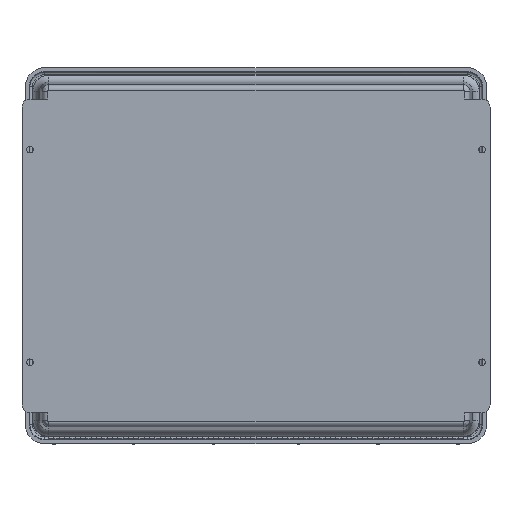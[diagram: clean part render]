
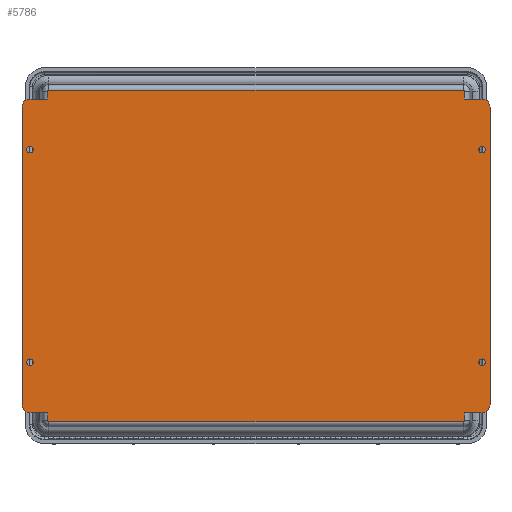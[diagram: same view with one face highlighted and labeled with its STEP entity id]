
A CAD part, front view. The second image highlights one B-rep face of the part: STEP entity #5786.
In plain terms, the highlighted planar face has unit normal (0, -1, 0) as drawn and (0, 0, 1) by its records, which use the part's own axes.
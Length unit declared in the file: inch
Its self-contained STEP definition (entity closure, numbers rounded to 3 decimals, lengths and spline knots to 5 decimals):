
#1221=DIRECTION('',(0.,-1.,0.));
#1222=VECTOR('',#1221,0.37559);
#1223=CARTESIAN_POINT('',(9.79238,-7.3744,8.5625));
#1224=LINE('',#1223,#1222);
#1290=DIRECTION('',(0.,1.,0.));
#1291=VECTOR('',#1290,0.37559);
#1292=CARTESIAN_POINT('',(-9.79238,7.3744,8.5625));
#1293=LINE('',#1292,#1291);
#1294=DIRECTION('',(1.,0.,0.));
#1295=VECTOR('',#1294,0.83262);
#1296=CARTESIAN_POINT('',(-10.625,7.3744,8.5625));
#1297=LINE('',#1296,#1295);
#1316=CARTESIAN_POINT('',(-9.74998,-7.74998,8.5625));
#1317=DIRECTION('',(0.,0.,1.));
#1318=DIRECTION('',(-1.,0.,0.));
#1319=AXIS2_PLACEMENT_3D('',#1316,#1317,#1318);
#1321=CARTESIAN_POINT('',(-10.625,-6.9994,8.5625));
#1322=DIRECTION('',(0.,0.,1.));
#1323=DIRECTION('',(-1.,0.,0.));
#1324=AXIS2_PLACEMENT_3D('',#1321,#1322,#1323);
#1326=CARTESIAN_POINT('',(-10.625,6.9994,8.5625));
#1327=DIRECTION('',(0.,0.,1.));
#1328=DIRECTION('',(0.,1.,0.));
#1329=AXIS2_PLACEMENT_3D('',#1326,#1327,#1328);
#1331=CARTESIAN_POINT('',(-9.74998,7.74998,8.5625));
#1332=DIRECTION('',(0.,0.,1.));
#1333=DIRECTION('',(0.,1.,0.));
#1334=AXIS2_PLACEMENT_3D('',#1331,#1332,#1333);
#1336=CARTESIAN_POINT('',(9.74998,7.74998,8.5625));
#1337=DIRECTION('',(0.,0.,1.));
#1338=DIRECTION('',(1.,0.,0.));
#1339=AXIS2_PLACEMENT_3D('',#1336,#1337,#1338);
#1341=DIRECTION('',(-1.,0.,0.));
#1342=VECTOR('',#1341,0.83262);
#1343=CARTESIAN_POINT('',(10.625,7.3744,8.5625));
#1344=LINE('',#1343,#1342);
#1345=CARTESIAN_POINT('',(10.625,6.9994,8.5625));
#1346=DIRECTION('',(0.,0.,1.));
#1347=DIRECTION('',(1.,0.,0.));
#1348=AXIS2_PLACEMENT_3D('',#1345,#1346,#1347);
#1350=DIRECTION('',(0.,1.,0.));
#1351=VECTOR('',#1350,13.99879);
#1352=CARTESIAN_POINT('',(11.,-6.9994,8.5625));
#1353=LINE('',#1352,#1351);
#1354=CARTESIAN_POINT('',(10.625,-6.9994,8.5625));
#1355=DIRECTION('',(0.,0.,1.));
#1356=DIRECTION('',(0.,-1.,0.));
#1357=AXIS2_PLACEMENT_3D('',#1354,#1355,#1356);
#1359=DIRECTION('',(1.,0.,0.));
#1360=VECTOR('',#1359,0.83262);
#1361=CARTESIAN_POINT('',(9.79238,-7.3744,8.5625));
#1362=LINE('',#1361,#1360);
#1363=CARTESIAN_POINT('',(9.74998,-7.74998,8.5625));
#1364=DIRECTION('',(0.,0.,1.));
#1365=DIRECTION('',(0.,-1.,0.));
#1366=AXIS2_PLACEMENT_3D('',#1363,#1364,#1365);
#1368=CARTESIAN_POINT('',(-10.625,-5.,8.5625));
#1369=DIRECTION('',(0.,0.,-1.));
#1370=DIRECTION('',(1.,0.,0.));
#1371=AXIS2_PLACEMENT_3D('',#1368,#1369,#1370);
#1373=CARTESIAN_POINT('',(-10.625,-5.,8.5625));
#1374=DIRECTION('',(0.,0.,-1.));
#1375=DIRECTION('',(-1.,0.,0.));
#1376=AXIS2_PLACEMENT_3D('',#1373,#1374,#1375);
#1378=CARTESIAN_POINT('',(10.625,-5.,8.5625));
#1379=DIRECTION('',(0.,0.,-1.));
#1380=DIRECTION('',(1.,0.,0.));
#1381=AXIS2_PLACEMENT_3D('',#1378,#1379,#1380);
#1383=CARTESIAN_POINT('',(10.625,-5.,8.5625));
#1384=DIRECTION('',(0.,0.,-1.));
#1385=DIRECTION('',(-1.,0.,0.));
#1386=AXIS2_PLACEMENT_3D('',#1383,#1384,#1385);
#1388=CARTESIAN_POINT('',(10.625,5.,8.5625));
#1389=DIRECTION('',(0.,0.,-1.));
#1390=DIRECTION('',(1.,0.,0.));
#1391=AXIS2_PLACEMENT_3D('',#1388,#1389,#1390);
#1393=CARTESIAN_POINT('',(10.625,5.,8.5625));
#1394=DIRECTION('',(0.,0.,-1.));
#1395=DIRECTION('',(-1.,0.,0.));
#1396=AXIS2_PLACEMENT_3D('',#1393,#1394,#1395);
#1398=CARTESIAN_POINT('',(-10.625,5.,8.5625));
#1399=DIRECTION('',(0.,0.,-1.));
#1400=DIRECTION('',(1.,0.,0.));
#1401=AXIS2_PLACEMENT_3D('',#1398,#1399,#1400);
#1403=CARTESIAN_POINT('',(-10.625,5.,8.5625));
#1404=DIRECTION('',(0.,0.,-1.));
#1405=DIRECTION('',(-1.,0.,0.));
#1406=AXIS2_PLACEMENT_3D('',#1403,#1404,#1405);
#1422=DIRECTION('',(-1.,0.,0.));
#1423=VECTOR('',#1422,19.49996);
#1424=CARTESIAN_POINT('',(9.74998,-7.79244,8.5625));
#1425=LINE('',#1424,#1423);
#1450=DIRECTION('',(0.,1.,0.));
#1451=VECTOR('',#1450,0.37559);
#1452=CARTESIAN_POINT('',(-9.79238,-7.74998,8.5625));
#1453=LINE('',#1452,#1451);
#1570=DIRECTION('',(-1.,0.,0.));
#1571=VECTOR('',#1570,0.83262);
#1572=CARTESIAN_POINT('',(-9.79238,-7.3744,8.5625));
#1573=LINE('',#1572,#1571);
#1582=DIRECTION('',(0.,1.,0.));
#1583=VECTOR('',#1582,13.99879);
#1584=CARTESIAN_POINT('',(-11.,-6.9994,8.5625));
#1585=LINE('',#1584,#1583);
#1675=DIRECTION('',(1.,0.,0.));
#1676=VECTOR('',#1675,19.49996);
#1677=CARTESIAN_POINT('',(-9.74998,7.79244,8.5625));
#1678=LINE('',#1677,#1676);
#1713=DIRECTION('',(0.,-1.,0.));
#1714=VECTOR('',#1713,0.37559);
#1715=CARTESIAN_POINT('',(9.79238,7.74998,8.5625));
#1716=LINE('',#1715,#1714);
#3446=CARTESIAN_POINT('',(-9.79238,-7.74998,8.5625));
#3447=VERTEX_POINT('',#3446);
#3450=CARTESIAN_POINT('',(-9.74998,-7.79256,8.5625));
#3451=VERTEX_POINT('',#3450);
#3453=CARTESIAN_POINT('',(-9.79238,-7.3744,8.5625));
#3455=VERTEX_POINT('',#3453);
#3456=CARTESIAN_POINT('',(-10.625,-7.3744,8.5625));
#3457=VERTEX_POINT('',#3456);
#3464=CARTESIAN_POINT('',(-9.79238,7.74998,8.5625));
#3466=VERTEX_POINT('',#3464);
#3469=CARTESIAN_POINT('',(-9.74998,7.79238,8.5625));
#3470=VERTEX_POINT('',#3469);
#3473=CARTESIAN_POINT('',(-9.79238,7.3744,8.5625));
#3475=VERTEX_POINT('',#3473);
#3479=CARTESIAN_POINT('',(-10.625,7.3744,8.5625));
#3480=VERTEX_POINT('',#3479);
#3485=CARTESIAN_POINT('',(9.74998,7.79256,8.5625));
#3487=VERTEX_POINT('',#3485);
#3489=CARTESIAN_POINT('',(9.79238,7.74998,8.5625));
#3490=VERTEX_POINT('',#3489);
#3498=CARTESIAN_POINT('',(9.79238,7.3744,8.5625));
#3500=VERTEX_POINT('',#3498);
#3502=CARTESIAN_POINT('',(10.625,7.3744,8.5625));
#3503=VERTEX_POINT('',#3502);
#3509=CARTESIAN_POINT('',(9.74998,-7.79256,8.5625));
#3511=VERTEX_POINT('',#3509);
#3512=CARTESIAN_POINT('',(9.79238,-7.74998,8.5625));
#3513=VERTEX_POINT('',#3512);
#3514=CARTESIAN_POINT('',(9.79238,-7.3744,8.5625));
#3515=VERTEX_POINT('',#3514);
#3516=CARTESIAN_POINT('',(10.625,-7.3744,8.5625));
#3517=VERTEX_POINT('',#3516);
#3518=CARTESIAN_POINT('',(11.,-6.9994,8.5625));
#3519=VERTEX_POINT('',#3518);
#3520=CARTESIAN_POINT('',(11.,6.9994,8.5625));
#3521=VERTEX_POINT('',#3520);
#3522=CARTESIAN_POINT('',(-11.,6.9994,8.5625));
#3523=VERTEX_POINT('',#3522);
#3524=CARTESIAN_POINT('',(-11.,-6.9994,8.5625));
#3525=VERTEX_POINT('',#3524);
#3801=CARTESIAN_POINT('',(-10.469,-5.,8.5625));
#3803=VERTEX_POINT('',#3801);
#3805=CARTESIAN_POINT('',(-10.781,-5.,8.5625));
#3807=VERTEX_POINT('',#3805);
#3809=CARTESIAN_POINT('',(10.781,-5.,8.5625));
#3811=VERTEX_POINT('',#3809);
#3813=CARTESIAN_POINT('',(10.469,-5.,8.5625));
#3815=VERTEX_POINT('',#3813);
#3817=CARTESIAN_POINT('',(10.781,5.,8.5625));
#3819=VERTEX_POINT('',#3817);
#3821=CARTESIAN_POINT('',(10.469,5.,8.5625));
#3823=VERTEX_POINT('',#3821);
#3825=CARTESIAN_POINT('',(-10.469,5.,8.5625));
#3827=VERTEX_POINT('',#3825);
#3829=CARTESIAN_POINT('',(-10.781,5.,8.5625));
#3831=VERTEX_POINT('',#3829);
#5719=CARTESIAN_POINT('',(0.,0.,8.5625));
#5720=DIRECTION('',(0.,0.,1.));
#5721=DIRECTION('',(1.,0.,0.));
#5722=AXIS2_PLACEMENT_3D('',#5719,#5720,#5721);
#5723=PLANE('',#5722);
#5725=ORIENTED_EDGE('',*,*,#5724,.T.);
#5727=ORIENTED_EDGE('',*,*,#5726,.F.);
#5729=ORIENTED_EDGE('',*,*,#5728,.T.);
#5731=ORIENTED_EDGE('',*,*,#5730,.T.);
#5733=ORIENTED_EDGE('',*,*,#5732,.F.);
#5735=ORIENTED_EDGE('',*,*,#5734,.T.);
#5737=ORIENTED_EDGE('',*,*,#5736,.F.);
#5738=ORIENTED_EDGE('',*,*,#5707,.T.);
#5739=ORIENTED_EDGE('',*,*,#5697,.T.);
#5741=ORIENTED_EDGE('',*,*,#5740,.F.);
#5743=ORIENTED_EDGE('',*,*,#5742,.T.);
#5745=ORIENTED_EDGE('',*,*,#5744,.F.);
#5747=ORIENTED_EDGE('',*,*,#5746,.T.);
#5749=ORIENTED_EDGE('',*,*,#5748,.F.);
#5751=ORIENTED_EDGE('',*,*,#5750,.F.);
#5753=ORIENTED_EDGE('',*,*,#5752,.F.);
#5755=ORIENTED_EDGE('',*,*,#5754,.F.);
#5757=ORIENTED_EDGE('',*,*,#5756,.F.);
#5758=ORIENTED_EDGE('',*,*,#5565,.T.);
#5759=ORIENTED_EDGE('',*,*,#5613,.F.);
#5760=EDGE_LOOP('',(#5725,#5727,#5729,#5731,#5733,#5735,#5737,#5738,#5739,#5741,
#5743,#5745,#5747,#5749,#5751,#5753,#5755,#5757,#5758,#5759));
#5761=FACE_OUTER_BOUND('',#5760,.F.);
#5763=ORIENTED_EDGE('',*,*,#5762,.F.);
#5765=ORIENTED_EDGE('',*,*,#5764,.F.);
#5766=EDGE_LOOP('',(#5763,#5765));
#5767=FACE_BOUND('',#5766,.F.);
#5769=ORIENTED_EDGE('',*,*,#5768,.F.);
#5771=ORIENTED_EDGE('',*,*,#5770,.F.);
#5772=EDGE_LOOP('',(#5769,#5771));
#5773=FACE_BOUND('',#5772,.F.);
#5775=ORIENTED_EDGE('',*,*,#5774,.F.);
#5777=ORIENTED_EDGE('',*,*,#5776,.F.);
#5778=EDGE_LOOP('',(#5775,#5777));
#5779=FACE_BOUND('',#5778,.F.);
#5781=ORIENTED_EDGE('',*,*,#5780,.F.);
#5783=ORIENTED_EDGE('',*,*,#5782,.F.);
#5784=EDGE_LOOP('',(#5781,#5783));
#5785=FACE_BOUND('',#5784,.F.);
#1320=CIRCLE('',#1319,0.0424);
#1325=CIRCLE('',#1324,0.375);
#1330=CIRCLE('',#1329,0.375);
#1335=CIRCLE('',#1334,0.0424);
#1340=CIRCLE('',#1339,0.0424);
#1349=CIRCLE('',#1348,0.375);
#1358=CIRCLE('',#1357,0.375);
#1367=CIRCLE('',#1366,0.0424);
#1372=CIRCLE('',#1371,0.156);
#1377=CIRCLE('',#1376,0.156);
#1382=CIRCLE('',#1381,0.156);
#1387=CIRCLE('',#1386,0.156);
#1392=CIRCLE('',#1391,0.156);
#1397=CIRCLE('',#1396,0.156);
#1402=CIRCLE('',#1401,0.156);
#1407=CIRCLE('',#1406,0.156);
#5565=EDGE_CURVE('',#3515,#3513,#1224,.T.);
#5613=EDGE_CURVE('',#3511,#3513,#1367,.T.);
#5697=EDGE_CURVE('',#3475,#3466,#1293,.T.);
#5707=EDGE_CURVE('',#3480,#3475,#1297,.T.);
#5724=EDGE_CURVE('',#3511,#3451,#1425,.T.);
#5726=EDGE_CURVE('',#3447,#3451,#1320,.T.);
#5728=EDGE_CURVE('',#3447,#3455,#1453,.T.);
#5730=EDGE_CURVE('',#3455,#3457,#1573,.T.);
#5732=EDGE_CURVE('',#3525,#3457,#1325,.T.);
#5734=EDGE_CURVE('',#3525,#3523,#1585,.T.);
#5736=EDGE_CURVE('',#3480,#3523,#1330,.T.);
#5740=EDGE_CURVE('',#3470,#3466,#1335,.T.);
#5742=EDGE_CURVE('',#3470,#3487,#1678,.T.);
#5744=EDGE_CURVE('',#3490,#3487,#1340,.T.);
#5746=EDGE_CURVE('',#3490,#3500,#1716,.T.);
#5748=EDGE_CURVE('',#3503,#3500,#1344,.T.);
#5750=EDGE_CURVE('',#3521,#3503,#1349,.T.);
#5752=EDGE_CURVE('',#3519,#3521,#1353,.T.);
#5754=EDGE_CURVE('',#3517,#3519,#1358,.T.);
#5756=EDGE_CURVE('',#3515,#3517,#1362,.T.);
#5762=EDGE_CURVE('',#3803,#3807,#1372,.T.);
#5764=EDGE_CURVE('',#3807,#3803,#1377,.T.);
#5768=EDGE_CURVE('',#3811,#3815,#1382,.T.);
#5770=EDGE_CURVE('',#3815,#3811,#1387,.T.);
#5774=EDGE_CURVE('',#3819,#3823,#1392,.T.);
#5776=EDGE_CURVE('',#3823,#3819,#1397,.T.);
#5780=EDGE_CURVE('',#3827,#3831,#1402,.T.);
#5782=EDGE_CURVE('',#3831,#3827,#1407,.T.);
#5786=ADVANCED_FACE('',(#5761,#5767,#5773,#5779,#5785),#5723,.T.);
